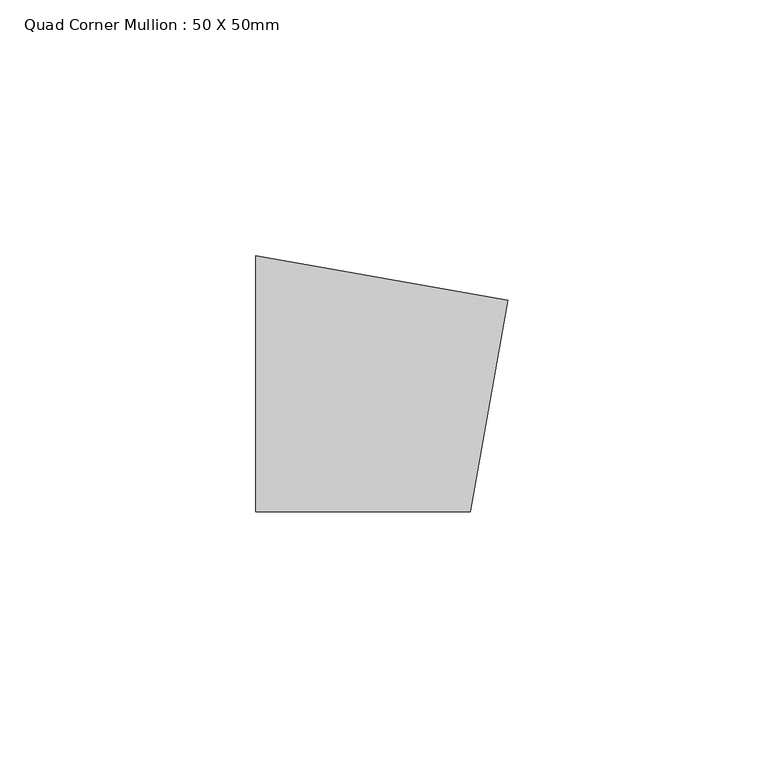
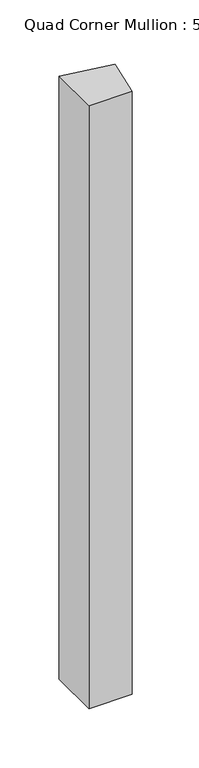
"""IFC4 building model written with IfcOpenShell, lengths in millimetres: member geometry, Quad Corner Mullion : 50 X 50mm."""

from ifc_helpers import new_model, si_unit, frame, origin, place, context, project, spatial, polyline, outline, extrude, source, transform, mapped, element, save


def quad_corner_mullion_50_x_50mm_dabb9d80(model_context):
    return source(origin(), model_context, "Body", "SweptSolid", [
        extrude(outline(polyline([(28.2628969, 16.3175911), (20.9774908, -25.0), (-20.9774908, -25.0), (-20.9774908, 25.0), (28.2628969, 16.3175911)])), frame((0.0, 0.0, -620.0), z_axis=(0.0, 0.0, 1.0), x_axis=(1.0, 0.0, 0.0)), (0.0, 0.0, 1.0), 620.0),
    ])


if __name__ == "__main__":
    model = new_model("IFC4")
    model_context = context("Model", 3, world=origin())
    ifc_project = project(units=[si_unit("LENGTHUNIT", "METRE", prefix="MILLI")], contexts=[model_context])
    site = spatial("IfcSite", under=ifc_project)
    building = spatial("IfcBuilding", under=site)
    placement = place(None, origin())
    quad_corner_mullion_50_x_50mm_shape = quad_corner_mullion_50_x_50mm_dabb9d80(model_context)
    element("IfcMember", 1, ObjectType="Quad Corner Mullion : 50 X 50mm", at=placement, inside=building, context=model_context, shape_type="MappedRepresentation", body=[
        mapped(quad_corner_mullion_50_x_50mm_shape, transform((0.0, 0.0, 0.0), x_axis=(1.0, 0.0, 0.0), y_axis=(0.0, 1.0, 0.0), z_axis=(0.0, 0.0, 1.0))),
    ])
    save(model, "model.ifc")
